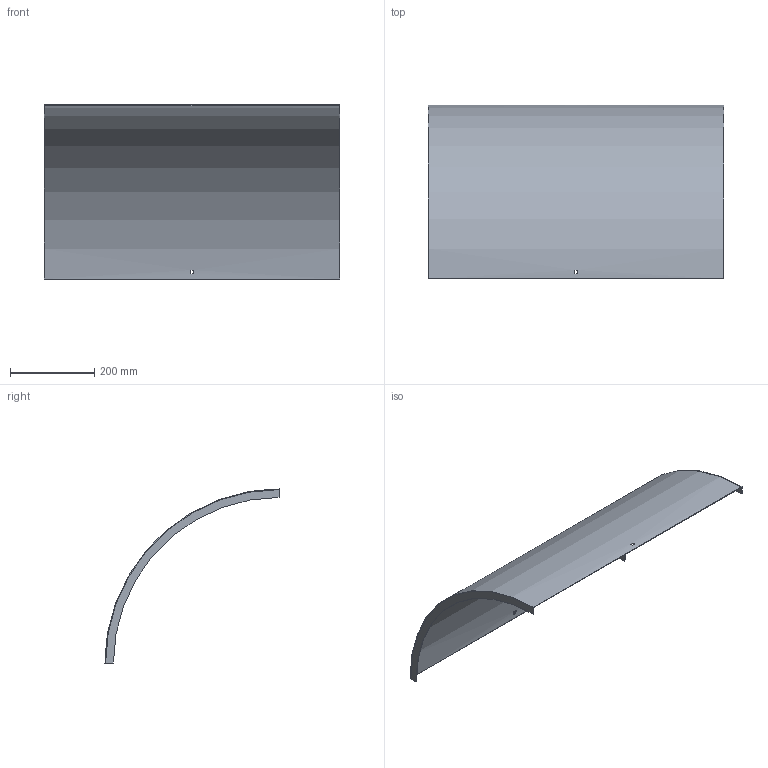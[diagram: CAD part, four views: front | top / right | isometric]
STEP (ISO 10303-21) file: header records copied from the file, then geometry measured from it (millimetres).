
FILE_DESCRIPTION (( 'STEP AP214' ), '1' );
FILE_NAME ('B2_33N3J700.step', '2025-02-21T10:47:49', ( '' ), ( '' ), 'SwSTEP 2.0', 'SolidWorks 2023', '' );
FILE_SCHEMA (( 'AUTOMOTIVE_DESIGN' ));
Length unit declared in the file: millimetre
Products named in the file (1): B2_33N3J700
Bounding box: 703 x 414 x 414 mm (x, y, z)
Volume: 719488.6 mm3; surface area: 963491.5 mm2
Topology: 1 solids, 1 shells, 18 faces, 48 edges, 32 vertices
Faces by surface type: plane 14, cylinder 4
Entity records: 599 total; most frequent: DIRECTION 102, CARTESIAN_POINT 99, ORIENTED_EDGE 96, EDGE_CURVE 48, AXIS2_PLACEMENT_3D 35, VECTOR 32, LINE 32, VERTEX_POINT 32
